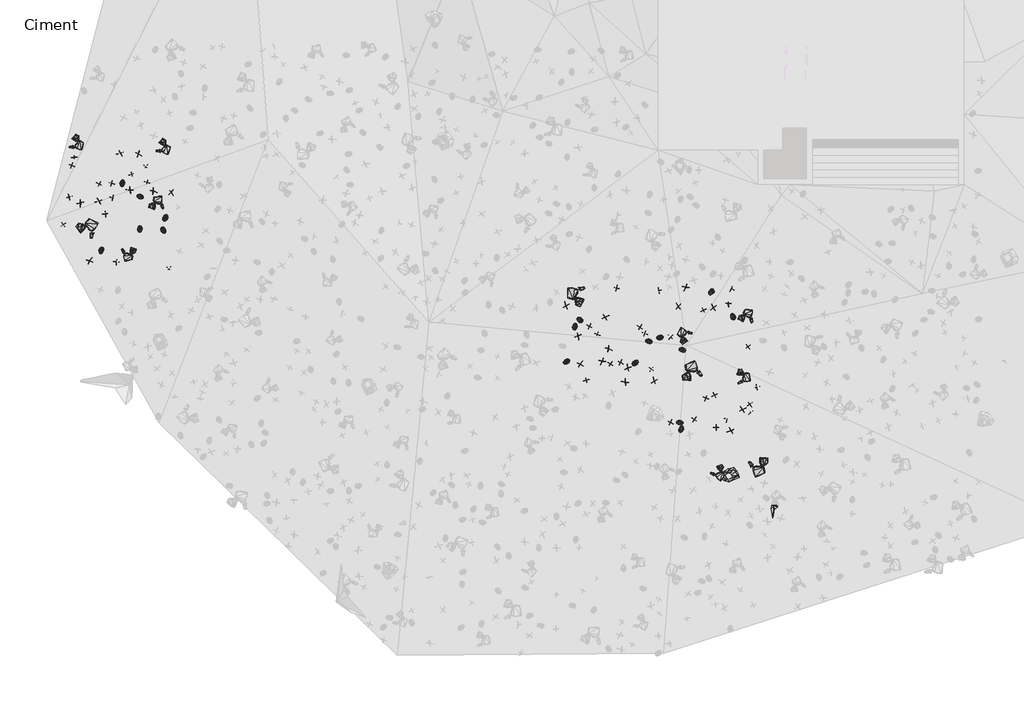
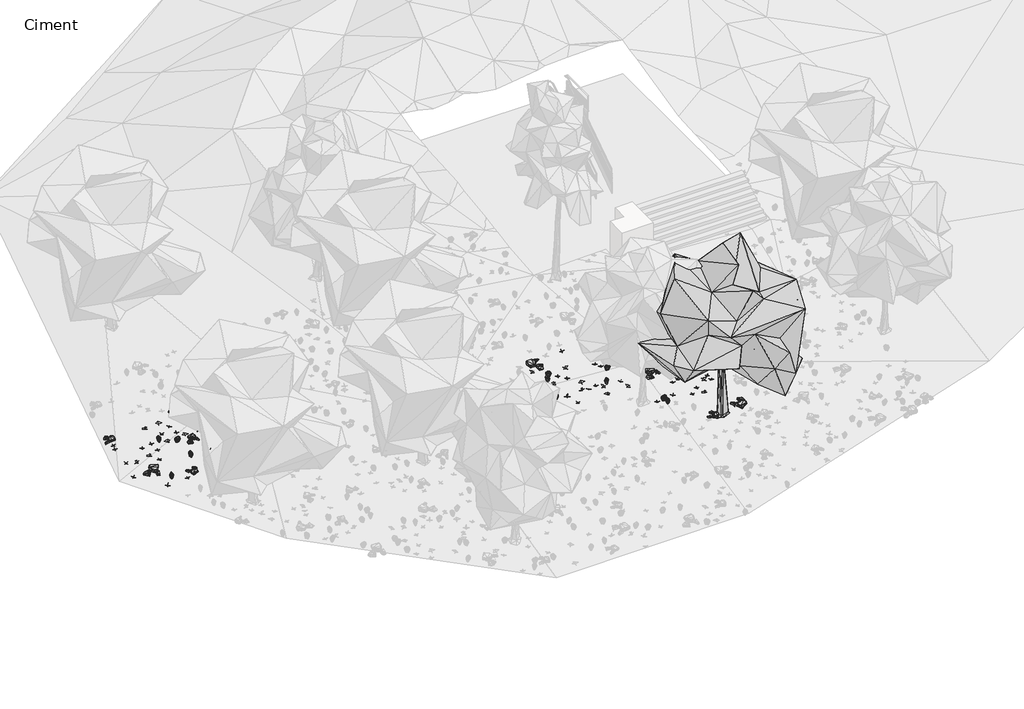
# One storey, part 5 of 30: 89 geographic elements.
"""IFC4 building model written with IfcOpenShell, lengths in millimetres."""

from ifc_helpers import new_model, si_unit, origin, place, context, project, spatial, transform, mapped, element, save
from components import enscape_assetdefinition_bush_025_fern_enscape_5718bf32, enscape_assetdefinition_bush_054_plant_09_version_2_enscape_7b546a12, enscape_assetdefinition_bush_062_plant_09_version_3_enscape_ccf8c8eb, enscape_assetdefinition_deciduous_tree_029_elm_enscape_e4c49baf, enscape_assetdefinition_stone_013_group_enscape_516da325, enscape_assetdefinition_stone_013_group_enscape_db9b3e91

model = new_model("IFC4")

# Units and contexts
model_context = context("Model", 3, world=origin())
ifc_project = project(units=[si_unit("LENGTHUNIT", "METRE", prefix="MILLI")], contexts=[model_context])

# Site, building, storey
site = spatial("IfcSite", under=ifc_project)
building = spatial("IfcBuilding", under=site)
storey = spatial("IfcBuildingStorey", under=building, Name="Ciment", Elevation=-1500.0)

# Geographic elements
placement = place(None, origin())
enscape_assetdefinition_bush_025_fern_enscape_shape = enscape_assetdefinition_bush_025_fern_enscape_5718bf32(model_context)
element("IfcGeographicElement", 1, ObjectType="Enscape AssetDefinition - Bush 025 Fern : Enscape AssetDefinition - Bush 025 Fern", at=placement, inside=storey, context=model_context, shape_type="MappedRepresentation", body=[
    mapped(enscape_assetdefinition_bush_025_fern_enscape_shape, transform((-7612.5183105, -17612.6613617, -1965.6220675), x_axis=(0.07223606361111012, 0.997387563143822, 0.0), y_axis=(-0.997387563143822, 0.07223606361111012, 0.0), z_axis=(0.0, 0.0, 1.0))),
])
element("IfcGeographicElement", 2, ObjectType="Enscape AssetDefinition - Bush 025 Fern : Enscape AssetDefinition - Bush 025 Fern", at=placement, inside=storey, context=model_context, shape_type="MappedRepresentation", body=[
    mapped(enscape_assetdefinition_bush_025_fern_enscape_shape, transform((-3229.391098, -18565.9103394, -2015.7375336), x_axis=(-0.9908557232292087, 0.13492566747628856, 0.0), y_axis=(-0.13492566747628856, -0.9908557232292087, 0.0), z_axis=(0.0, 0.0, 1.0))),
])
element("IfcGeographicElement", 3, ObjectType="Enscape AssetDefinition - Bush 025 Fern : Enscape AssetDefinition - Bush 025 Fern", at=placement, inside=storey, context=model_context, shape_type="MappedRepresentation", body=[
    mapped(enscape_assetdefinition_bush_025_fern_enscape_shape, transform((-7967.4682617, -19050.9395599, -2087.8872871), x_axis=(-0.8058529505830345, -0.5921157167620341, 0.0), y_axis=(0.5921157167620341, -0.8058529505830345, 0.0), z_axis=(0.0, 0.0, 1.0))),
])
element("IfcGeographicElement", 4, ObjectType="Enscape AssetDefinition - Bush 025 Fern : Enscape AssetDefinition - Bush 025 Fern", at=placement, inside=storey, context=model_context, shape_type="MappedRepresentation", body=[
    mapped(enscape_assetdefinition_bush_025_fern_enscape_shape, transform((-4146.2955475, -18061.0675812, -1978.5300493), x_axis=(-0.9344900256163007, -0.35598931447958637, 0.0), y_axis=(0.35598931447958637, -0.9344900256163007, 0.0), z_axis=(0.0, 0.0, 1.0))),
])
element("IfcGeographicElement", 5, ObjectType="Enscape AssetDefinition - Bush 025 Fern : Enscape AssetDefinition - Bush 025 Fern", at=placement, inside=storey, context=model_context, shape_type="MappedRepresentation", body=[
    mapped(enscape_assetdefinition_bush_025_fern_enscape_shape, transform((-4597.2537994, -18213.5334015, -1997.2624779), x_axis=(-0.9892392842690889, 0.14630665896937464, 0.0), y_axis=(-0.14630665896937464, -0.9892392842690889, 0.0), z_axis=(0.0, 0.0, 1.0))),
])
element("IfcGeographicElement", 6, ObjectType="Enscape AssetDefinition - Bush 025 Fern : Enscape AssetDefinition - Bush 025 Fern", at=placement, inside=storey, context=model_context, shape_type="MappedRepresentation", body=[
    mapped(enscape_assetdefinition_bush_025_fern_enscape_shape, transform((-24372.3812103, -13175.2147675, -2550.5905151), x_axis=(-0.35983525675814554, -0.9330158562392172, 0.0), y_axis=(0.9330158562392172, -0.35983525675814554, 0.0), z_axis=(0.0, 0.0, 1.0))),
])
element("IfcGeographicElement", 7, ObjectType="Enscape AssetDefinition - Bush 025 Fern : Enscape AssetDefinition - Bush 025 Fern", at=placement, inside=storey, context=model_context, shape_type="MappedRepresentation", body=[
    mapped(enscape_assetdefinition_bush_025_fern_enscape_shape, transform((-3263.0465031, -21805.0708771, -2272.6607323), x_axis=(0.2091553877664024, 0.9778824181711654, 0.0), y_axis=(-0.9778824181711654, 0.2091553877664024, 0.0), z_axis=(0.0, 0.0, 1.0))),
])
element("IfcGeographicElement", 8, ObjectType="Enscape AssetDefinition - Bush 025 Fern : Enscape AssetDefinition - Bush 025 Fern", at=placement, inside=storey, context=model_context, shape_type="MappedRepresentation", body=[
    mapped(enscape_assetdefinition_bush_025_fern_enscape_shape, transform((-26125.1544952, -11756.7424774, -2655.4327011), x_axis=(0.000703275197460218, -0.9999997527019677, 0.0), y_axis=(0.9999997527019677, 0.000703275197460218, 0.0), z_axis=(0.0, 0.0, 1.0))),
])
element("IfcGeographicElement", 9, ObjectType="Enscape AssetDefinition - Bush 025 Fern : Enscape AssetDefinition - Bush 025 Fern", at=placement, inside=storey, context=model_context, shape_type="MappedRepresentation", body=[
    mapped(enscape_assetdefinition_bush_025_fern_enscape_shape, transform((-1150.8464813, -17198.9078522, -1899.0255594), x_axis=(-0.5164579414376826, 0.8563125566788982, 0.0), y_axis=(-0.8563125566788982, -0.5164579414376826, 0.0), z_axis=(0.0, 0.0, 1.0))),
])
element("IfcGeographicElement", 10, ObjectType="Enscape AssetDefinition - Bush 025 Fern : Enscape AssetDefinition - Bush 025 Fern", at=placement, inside=storey, context=model_context, shape_type="MappedRepresentation", body=[
    mapped(enscape_assetdefinition_bush_025_fern_enscape_shape, transform((-25408.3480835, -13630.9947968, -2668.7676907), x_axis=(-0.012151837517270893, -0.9999261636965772, 0.0), y_axis=(0.9999261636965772, -0.012151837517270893, 0.0), z_axis=(0.0, 0.0, 1.0))),
])
element("IfcGeographicElement", 11, ObjectType="Enscape AssetDefinition - Bush 025 Fern : Enscape AssetDefinition - Bush 025 Fern", at=placement, inside=storey, context=model_context, shape_type="MappedRepresentation", body=[
    mapped(enscape_assetdefinition_bush_025_fern_enscape_shape, transform((-3335.269928, -21542.6082611, -2251.0170937), x_axis=(-0.999972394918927, -0.007430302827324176, 0.0), y_axis=(0.007430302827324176, -0.999972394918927, 0.0), z_axis=(0.0, 0.0, 1.0))),
])
element("IfcGeographicElement", 12, ObjectType="Enscape AssetDefinition - Bush 025 Fern : Enscape AssetDefinition - Bush 025 Fern", at=placement, inside=storey, context=model_context, shape_type="MappedRepresentation", body=[
    mapped(enscape_assetdefinition_bush_025_fern_enscape_shape, transform((-2045.0191498, -16206.3236237, -1758.882761), x_axis=(-0.5028364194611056, -0.8643815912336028, 0.0), y_axis=(0.8643815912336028, -0.5028364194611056, 0.0), z_axis=(0.0, 0.0, 1.0))),
])
element("IfcGeographicElement", 13, ObjectType="Enscape AssetDefinition - Bush 025 Fern : Enscape AssetDefinition - Bush 025 Fern", at=placement, inside=storey, context=model_context, shape_type="MappedRepresentation", body=[
    mapped(enscape_assetdefinition_bush_025_fern_enscape_shape, transform((-25402.7519226, -12291.472435, -2600.0366211), x_axis=(-0.9953551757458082, 0.09627083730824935, 0.0), y_axis=(-0.09627083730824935, -0.9953551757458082, 0.0), z_axis=(0.0, 0.0, 1.0))),
])
element("IfcGeographicElement", 14, ObjectType="Enscape AssetDefinition - Bush 025 Fern : Enscape AssetDefinition - Bush 025 Fern", at=placement, inside=storey, context=model_context, shape_type="MappedRepresentation", body=[
    mapped(enscape_assetdefinition_bush_025_fern_enscape_shape, transform((-26988.2793427, -14503.2482147, -2858.0183983), x_axis=(-0.17702829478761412, -0.9842057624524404, 0.0), y_axis=(0.9842057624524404, -0.17702829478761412, 0.0), z_axis=(0.0, 0.0, 1.0))),
])
element("IfcGeographicElement", 15, ObjectType="Enscape AssetDefinition - Bush 025 Fern : Enscape AssetDefinition - Bush 025 Fern", at=placement, inside=storey, context=model_context, shape_type="MappedRepresentation", body=[
    mapped(enscape_assetdefinition_bush_025_fern_enscape_shape, transform((-5139.9326324, -19103.4488678, -2071.7716217), x_axis=(0.7109456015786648, 0.7032470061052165, 0.0), y_axis=(-0.7032470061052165, 0.7109456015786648, 0.0), z_axis=(0.0, 0.0, 1.0))),
])
element("IfcGeographicElement", 16, ObjectType="Enscape AssetDefinition - Bush 025 Fern : Enscape AssetDefinition - Bush 025 Fern", at=placement, inside=storey, context=model_context, shape_type="MappedRepresentation", body=[
    mapped(enscape_assetdefinition_bush_025_fern_enscape_shape, transform((-7416.9025421, -17333.9099884, -1936.9082451), x_axis=(-0.847628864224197, 0.5305895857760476, 0.0), y_axis=(-0.5305895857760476, -0.847628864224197, 0.0), z_axis=(0.0, 0.0, 1.0))),
])
element("IfcGeographicElement", 17, ObjectType="Enscape AssetDefinition - Bush 025 Fern : Enscape AssetDefinition - Bush 025 Fern", at=placement, inside=storey, context=model_context, shape_type="MappedRepresentation", body=[
    mapped(enscape_assetdefinition_bush_025_fern_enscape_shape, transform((-24450.3135681, -13680.1242828, -2583.4479332), x_axis=(0.5643490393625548, -0.8255362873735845, 0.0), y_axis=(0.8255362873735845, 0.5643490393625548, 0.0), z_axis=(0.0, 0.0, 1.0))),
])
enscape_assetdefinition_bush_054_plant_09_version_2_enscape_shape = enscape_assetdefinition_bush_054_plant_09_version_2_enscape_7b546a12(model_context)
element("IfcGeographicElement", 18, ObjectType="Enscape AssetDefinition - Bush 054 Plant 09, Version 2 : Enscape AssetDefinition - Bush 054 Plant 09, Version 2", at=placement, inside=storey, context=model_context, shape_type="MappedRepresentation", body=[
    mapped(enscape_assetdefinition_bush_054_plant_09_version_2_enscape_shape, transform((-1843.7614441, -21749.8531342, -2305.372715), x_axis=(0.9977393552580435, 0.06720252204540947, 0.0), y_axis=(-0.06720252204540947, 0.9977393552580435, 0.0), z_axis=(0.0, 0.0, 1.0))),
])
element("IfcGeographicElement", 19, ObjectType="Enscape AssetDefinition - Bush 054 Plant 09, Version 2 : Enscape AssetDefinition - Bush 054 Plant 09, Version 2", at=placement, inside=storey, context=model_context, shape_type="MappedRepresentation", body=[
    mapped(enscape_assetdefinition_bush_054_plant_09_version_2_enscape_shape, transform((-26812.9272461, -13013.0329132, -2766.0522461), x_axis=(0.9867023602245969, 0.16253754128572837, 0.0), y_axis=(-0.16253754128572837, 0.9867023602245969, 0.0), z_axis=(0.0, 0.0, 1.0))),
])
element("IfcGeographicElement", 20, ObjectType="Enscape AssetDefinition - Bush 054 Plant 09, Version 2 : Enscape AssetDefinition - Bush 054 Plant 09, Version 2", at=placement, inside=storey, context=model_context, shape_type="MappedRepresentation", body=[
    mapped(enscape_assetdefinition_bush_054_plant_09_version_2_enscape_shape, transform((-1398.3078003, -21424.5662689, -2290.6184196), x_axis=(0.9726365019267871, -0.23233216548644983, 0.0), y_axis=(0.23233216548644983, 0.9726365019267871, 0.0), z_axis=(0.0, 0.0, 1.0))),
])
element("IfcGeographicElement", 21, ObjectType="Enscape AssetDefinition - Bush 054 Plant 09, Version 2 : Enscape AssetDefinition - Bush 054 Plant 09, Version 2", at=placement, inside=storey, context=model_context, shape_type="MappedRepresentation", body=[
    mapped(enscape_assetdefinition_bush_054_plant_09_version_2_enscape_shape, transform((-2370.5768585, -16945.4059601, -1840.4824734), x_axis=(0.48583258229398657, -0.8740518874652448, 0.0), y_axis=(0.8740518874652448, 0.48583258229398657, 0.0), z_axis=(0.0, 0.0, 1.0))),
])
element("IfcGeographicElement", 22, ObjectType="Enscape AssetDefinition - Bush 054 Plant 09, Version 2 : Enscape AssetDefinition - Bush 054 Plant 09, Version 2", at=placement, inside=storey, context=model_context, shape_type="MappedRepresentation", body=[
    mapped(enscape_assetdefinition_bush_054_plant_09_version_2_enscape_shape, transform((-420.0324714, -21140.7833099, -2293.2014465), x_axis=(0.7024263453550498, 0.7117564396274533, 0.0), y_axis=(-0.7117564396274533, 0.7024263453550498, 0.0), z_axis=(0.0, 0.0, 1.0))),
])
element("IfcGeographicElement", 23, ObjectType="Enscape AssetDefinition - Bush 054 Plant 09, Version 2 : Enscape AssetDefinition - Bush 054 Plant 09, Version 2", at=placement, inside=storey, context=model_context, shape_type="MappedRepresentation", body=[
    mapped(enscape_assetdefinition_bush_054_plant_09_version_2_enscape_shape, transform((-24219.1123962, -15247.6100922, -2642.0812607), x_axis=(-0.5691549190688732, -0.822230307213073, 0.0), y_axis=(0.822230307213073, -0.5691549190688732, 0.0), z_axis=(0.0, 0.0, 1.0))),
])
element("IfcGeographicElement", 24, ObjectType="Enscape AssetDefinition - Bush 054 Plant 09, Version 2 : Enscape AssetDefinition - Bush 054 Plant 09, Version 2", at=placement, inside=storey, context=model_context, shape_type="MappedRepresentation", body=[
    mapped(enscape_assetdefinition_bush_054_plant_09_version_2_enscape_shape, transform((-27075.9334564, -11788.4349823, -2757.7078342), x_axis=(0.9224442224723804, -0.38613036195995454, 0.0), y_axis=(0.38613036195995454, 0.9224442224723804, 0.0), z_axis=(0.0, 0.0, 1.0))),
])
element("IfcGeographicElement", 25, ObjectType="Enscape AssetDefinition - Bush 054 Plant 09, Version 2 : Enscape AssetDefinition - Bush 054 Plant 09, Version 2", at=placement, inside=storey, context=model_context, shape_type="MappedRepresentation", body=[
    mapped(enscape_assetdefinition_bush_054_plant_09_version_2_enscape_shape, transform((-3702.1465302, -21532.3467255, -2252.8364658), x_axis=(-0.9185486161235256, 0.39530803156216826, 0.0), y_axis=(-0.39530803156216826, -0.9185486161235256, 0.0), z_axis=(0.0, 0.0, 1.0))),
])
element("IfcGeographicElement", 26, ObjectType="Enscape AssetDefinition - Bush 054 Plant 09, Version 2 : Enscape AssetDefinition - Bush 054 Plant 09, Version 2", at=placement, inside=storey, context=model_context, shape_type="MappedRepresentation", body=[
    mapped(enscape_assetdefinition_bush_054_plant_09_version_2_enscape_shape, transform((-2255.6533813, -20551.361084, -2197.2026825), x_axis=(0.3170255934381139, 0.9484169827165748, 0.0), y_axis=(-0.9484169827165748, 0.3170255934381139, 0.0), z_axis=(0.0, 0.0, 1.0))),
])
element("IfcGeographicElement", 27, ObjectType="Enscape AssetDefinition - Bush 054 Plant 09, Version 2 : Enscape AssetDefinition - Bush 054 Plant 09, Version 2", at=placement, inside=storey, context=model_context, shape_type="MappedRepresentation", body=[
    mapped(enscape_assetdefinition_bush_054_plant_09_version_2_enscape_shape, transform((-4189.6877289, -16152.2884369, -1794.0789461), x_axis=(0.9609016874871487, 0.27688977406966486, 0.0), y_axis=(-0.27688977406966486, 0.9609016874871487, 0.0), z_axis=(0.0, 0.0, 1.0))),
])
element("IfcGeographicElement", 28, ObjectType="Enscape AssetDefinition - Bush 054 Plant 09, Version 2 : Enscape AssetDefinition - Bush 054 Plant 09, Version 2", at=placement, inside=storey, context=model_context, shape_type="MappedRepresentation", body=[
    mapped(enscape_assetdefinition_bush_054_plant_09_version_2_enscape_shape, transform((-2742.3782349, -21421.6957092, -2255.1589012), x_axis=(0.8522305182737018, -0.5231664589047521, 0.0), y_axis=(0.5231664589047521, 0.8522305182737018, 0.0), z_axis=(0.0, 0.0, 1.0))),
])
element("IfcGeographicElement", 29, ObjectType="Enscape AssetDefinition - Bush 054 Plant 09, Version 2 : Enscape AssetDefinition - Bush 054 Plant 09, Version 2", at=placement, inside=storey, context=model_context, shape_type="MappedRepresentation", body=[
    mapped(enscape_assetdefinition_bush_054_plant_09_version_2_enscape_shape, transform((-3705.9726715, -18047.7352142, -1973.3622074), x_axis=(0.7701134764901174, -0.6379069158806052, 0.0), y_axis=(0.6379069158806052, 0.7701134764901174, 0.0), z_axis=(0.0, 0.0, 1.0))),
])
element("IfcGeographicElement", 30, ObjectType="Enscape AssetDefinition - Bush 054 Plant 09, Version 2 : Enscape AssetDefinition - Bush 054 Plant 09, Version 2", at=placement, inside=storey, context=model_context, shape_type="MappedRepresentation", body=[
    mapped(enscape_assetdefinition_bush_054_plant_09_version_2_enscape_shape, transform((-4757.5569153, -17904.6649933, -1968.765974), x_axis=(0.3163911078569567, 0.9486288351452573, 0.0), y_axis=(-0.9486288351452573, 0.3163911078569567, 0.0), z_axis=(0.0, 0.0, 1.0))),
])
element("IfcGeographicElement", 31, ObjectType="Enscape AssetDefinition - Bush 054 Plant 09, Version 2 : Enscape AssetDefinition - Bush 054 Plant 09, Version 2", at=placement, inside=storey, context=model_context, shape_type="MappedRepresentation", body=[
    mapped(enscape_assetdefinition_bush_054_plant_09_version_2_enscape_shape, transform((-5747.0932007, -19078.3786774, -2074.1457939), x_axis=(-0.9169405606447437, 0.3990238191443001, 0.0), y_axis=(-0.3990238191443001, -0.9169405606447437, 0.0), z_axis=(0.0, 0.0, 1.0))),
])
element("IfcGeographicElement", 32, ObjectType="Enscape AssetDefinition - Bush 054 Plant 09, Version 2 : Enscape AssetDefinition - Bush 054 Plant 09, Version 2", at=placement, inside=storey, context=model_context, shape_type="MappedRepresentation", body=[
    mapped(enscape_assetdefinition_bush_054_plant_09_version_2_enscape_shape, transform((-4959.7949982, -17638.7271881, -1944.7947741), x_axis=(-0.4951869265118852, -0.8687864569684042, 0.0), y_axis=(0.8687864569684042, -0.4951869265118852, 0.0), z_axis=(0.0, 0.0, 1.0))),
])
element("IfcGeographicElement", 33, ObjectType="Enscape AssetDefinition - Bush 054 Plant 09, Version 2 : Enscape AssetDefinition - Bush 054 Plant 09, Version 2", at=placement, inside=storey, context=model_context, shape_type="MappedRepresentation", body=[
    mapped(enscape_assetdefinition_bush_054_plant_09_version_2_enscape_shape, transform((-175.8041233, -20092.9813385, -2214.4703865), x_axis=(-0.9647202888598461, -0.2632769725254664, 0.0), y_axis=(0.2632769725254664, -0.9647202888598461, 0.0), z_axis=(0.0, 0.0, 1.0))),
])
element("IfcGeographicElement", 34, ObjectType="Enscape AssetDefinition - Bush 054 Plant 09, Version 2 : Enscape AssetDefinition - Bush 054 Plant 09, Version 2", at=placement, inside=storey, context=model_context, shape_type="MappedRepresentation", body=[
    mapped(enscape_assetdefinition_bush_054_plant_09_version_2_enscape_shape, transform((-28536.2110138, -13441.7858124, -2945.8577633), x_axis=(-0.7792571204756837, -0.6267043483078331, 0.0), y_axis=(0.6267043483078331, -0.7792571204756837, 0.0), z_axis=(0.0, 0.0, 1.0))),
])
element("IfcGeographicElement", 35, ObjectType="Enscape AssetDefinition - Bush 054 Plant 09, Version 2 : Enscape AssetDefinition - Bush 054 Plant 09, Version 2", at=placement, inside=storey, context=model_context, shape_type="MappedRepresentation", body=[
    mapped(enscape_assetdefinition_bush_054_plant_09_version_2_enscape_shape, transform((-459.4841003, -20796.4611053, -2264.1921043), x_axis=(-0.6490636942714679, 0.7607340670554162, 0.0), y_axis=(-0.7607340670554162, -0.6490636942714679, 0.0), z_axis=(0.0, 0.0, 1.0))),
])
element("IfcGeographicElement", 36, ObjectType="Enscape AssetDefinition - Bush 054 Plant 09, Version 2 : Enscape AssetDefinition - Bush 054 Plant 09, Version 2", at=placement, inside=storey, context=model_context, shape_type="MappedRepresentation", body=[
    mapped(enscape_assetdefinition_bush_054_plant_09_version_2_enscape_shape, transform((-26551.2924194, -11750.2536774, -2701.1044025), x_axis=(-0.9853078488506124, 0.17078771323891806, 0.0), y_axis=(-0.17078771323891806, -0.9853078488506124, 0.0), z_axis=(0.0, 0.0, 1.0))),
])
element("IfcGeographicElement", 37, ObjectType="Enscape AssetDefinition - Bush 054 Plant 09, Version 2 : Enscape AssetDefinition - Bush 054 Plant 09, Version 2", at=placement, inside=storey, context=model_context, shape_type="MappedRepresentation", body=[
    mapped(enscape_assetdefinition_bush_054_plant_09_version_2_enscape_shape, transform((-7030.400753, -17614.156723, -1960.6425762), x_axis=(0.9382029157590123, -0.3460856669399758, 0.0), y_axis=(0.3460856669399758, 0.9382029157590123, 0.0), z_axis=(0.0, 0.0, 1.0))),
])
element("IfcGeographicElement", 38, ObjectType="Enscape AssetDefinition - Bush 054 Plant 09, Version 2 : Enscape AssetDefinition - Bush 054 Plant 09, Version 2", at=placement, inside=storey, context=model_context, shape_type="MappedRepresentation", body=[
    mapped(enscape_assetdefinition_bush_054_plant_09_version_2_enscape_shape, transform((-5904.8194885, -16036.0126495, -1797.9177237), x_axis=(-0.9840605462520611, 0.17783374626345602, 0.0), y_axis=(-0.17783374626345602, -0.9840605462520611, 0.0), z_axis=(0.0, 0.0, 1.0))),
])
element("IfcGeographicElement", 39, ObjectType="Enscape AssetDefinition - Bush 054 Plant 09, Version 2 : Enscape AssetDefinition - Bush 054 Plant 09, Version 2", at=placement, inside=storey, context=model_context, shape_type="MappedRepresentation", body=[
    mapped(enscape_assetdefinition_bush_054_plant_09_version_2_enscape_shape, transform((-4488.7313843, -19360.1856232, -2087.3353481), x_axis=(0.8392856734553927, -0.5436906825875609, 0.0), y_axis=(0.5436906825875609, 0.8392856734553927, 0.0), z_axis=(0.0, 0.0, 1.0))),
])
element("IfcGeographicElement", 40, ObjectType="Enscape AssetDefinition - Bush 054 Plant 09, Version 2 : Enscape AssetDefinition - Bush 054 Plant 09, Version 2", at=placement, inside=storey, context=model_context, shape_type="MappedRepresentation", body=[
    mapped(enscape_assetdefinition_bush_054_plant_09_version_2_enscape_shape, transform((-1914.5088196, -20420.3548431, -2195.4994202), x_axis=(0.5176627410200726, -0.8555847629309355, 0.0), y_axis=(0.8555847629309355, 0.5176627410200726, 0.0), z_axis=(0.0, 0.0, 1.0))),
])
element("IfcGeographicElement", 41, ObjectType="Enscape AssetDefinition - Bush 054 Plant 09, Version 2 : Enscape AssetDefinition - Bush 054 Plant 09, Version 2", at=placement, inside=storey, context=model_context, shape_type="MappedRepresentation", body=[
    mapped(enscape_assetdefinition_bush_054_plant_09_version_2_enscape_shape, transform((-28188.6024475, -11018.0530548, -2886.9066238), x_axis=(-0.9619515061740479, 0.2732202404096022, 0.0), y_axis=(-0.2732202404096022, -0.9619515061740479, 0.0), z_axis=(0.0, 0.0, 1.0))),
])
element("IfcGeographicElement", 42, ObjectType="Enscape AssetDefinition - Bush 054 Plant 09, Version 2 : Enscape AssetDefinition - Bush 054 Plant 09, Version 2", at=placement, inside=storey, context=model_context, shape_type="MappedRepresentation", body=[
    mapped(enscape_assetdefinition_bush_054_plant_09_version_2_enscape_shape, transform((-25112.5431061, -11708.990097, -2546.3929176), x_axis=(-0.22776663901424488, -0.9737157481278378, 0.0), y_axis=(0.9737157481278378, -0.22776663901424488, 0.0), z_axis=(0.0, 0.0, 1.0))),
])
element("IfcGeographicElement", 43, ObjectType="Enscape AssetDefinition - Bush 054 Plant 09, Version 2 : Enscape AssetDefinition - Bush 054 Plant 09, Version 2", at=placement, inside=storey, context=model_context, shape_type="MappedRepresentation", body=[
    mapped(enscape_assetdefinition_bush_054_plant_09_version_2_enscape_shape, transform((-6702.5680542, -17931.2343597, -1988.4605408), x_axis=(-0.3139423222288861, -0.9494420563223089, 0.0), y_axis=(0.9494420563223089, -0.3139423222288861, 0.0), z_axis=(0.0, 0.0, 1.0))),
])
element("IfcGeographicElement", 44, ObjectType="Enscape AssetDefinition - Bush 054 Plant 09, Version 2 : Enscape AssetDefinition - Bush 054 Plant 09, Version 2", at=placement, inside=storey, context=model_context, shape_type="MappedRepresentation", body=[
    mapped(enscape_assetdefinition_bush_054_plant_09_version_2_enscape_shape, transform((-26356.2450409, -14969.625473, -2823.8320351), x_axis=(0.02381646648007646, 0.9997163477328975, 0.0), y_axis=(-0.9997163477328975, 0.02381646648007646, 0.0), z_axis=(0.0, 0.0, 1.0))),
])
element("IfcGeographicElement", 45, ObjectType="Enscape AssetDefinition - Bush 054 Plant 09, Version 2 : Enscape AssetDefinition - Bush 054 Plant 09, Version 2", at=placement, inside=storey, context=model_context, shape_type="MappedRepresentation", body=[
    mapped(enscape_assetdefinition_bush_054_plant_09_version_2_enscape_shape, transform((-539.4630432, -18433.5632324, -2056.5431118), x_axis=(-0.753212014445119, -0.6577778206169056, 0.0), y_axis=(0.6577778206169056, -0.753212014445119, 0.0), z_axis=(0.0, 0.0, 1.0))),
])
element("IfcGeographicElement", 46, ObjectType="Enscape AssetDefinition - Bush 054 Plant 09, Version 2 : Enscape AssetDefinition - Bush 054 Plant 09, Version 2", at=placement, inside=storey, context=model_context, shape_type="MappedRepresentation", body=[
    mapped(enscape_assetdefinition_bush_054_plant_09_version_2_enscape_shape, transform((-7160.0914001, -19801.1264801, -2141.2081718), x_axis=(0.28577644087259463, -0.9582963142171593, 0.0), y_axis=(0.9582963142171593, 0.28577644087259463, 0.0), z_axis=(0.0, 0.0, 1.0))),
])
element("IfcGeographicElement", 47, ObjectType="Enscape AssetDefinition - Bush 054 Plant 09, Version 2 : Enscape AssetDefinition - Bush 054 Plant 09, Version 2", at=placement, inside=storey, context=model_context, shape_type="MappedRepresentation", body=[
    mapped(enscape_assetdefinition_bush_054_plant_09_version_2_enscape_shape, transform((-25159.570694, -11075.6893158, -2546.295166), x_axis=(-0.5837198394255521, -0.8119551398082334, 0.0), y_axis=(0.8119551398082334, -0.5837198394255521, 0.0), z_axis=(0.0, 0.0, 1.0))),
])
element("IfcGeographicElement", 48, ObjectType="Enscape AssetDefinition - Bush 054 Plant 09, Version 2 : Enscape AssetDefinition - Bush 054 Plant 09, Version 2", at=placement, inside=storey, context=model_context, shape_type="MappedRepresentation", body=[
    mapped(enscape_assetdefinition_bush_054_plant_09_version_2_enscape_shape, transform((-6164.6442413, -19135.9462738, -2081.6717148), x_axis=(-0.5101300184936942, -0.8600972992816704, 0.0), y_axis=(0.8600972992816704, -0.5101300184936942, 0.0), z_axis=(0.0, 0.0, 1.0))),
])
element("IfcGeographicElement", 49, ObjectType="Enscape AssetDefinition - Bush 054 Plant 09, Version 2 : Enscape AssetDefinition - Bush 054 Plant 09, Version 2", at=placement, inside=storey, context=model_context, shape_type="MappedRepresentation", body=[
    mapped(enscape_assetdefinition_bush_054_plant_09_version_2_enscape_shape, transform((-25744.51828, -11373.2852936, -2611.4761829), x_axis=(0.3201404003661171, -0.9473701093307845, 0.0), y_axis=(0.9473701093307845, 0.3201404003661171, 0.0), z_axis=(0.0, 0.0, 1.0))),
])
element("IfcGeographicElement", 50, ObjectType="Enscape AssetDefinition - Bush 054 Plant 09, Version 2 : Enscape AssetDefinition - Bush 054 Plant 09, Version 2", at=placement, inside=storey, context=model_context, shape_type="MappedRepresentation", body=[
    mapped(enscape_assetdefinition_bush_054_plant_09_version_2_enscape_shape, transform((-28080.7533264, -10698.3509064, -2880.6409836), x_axis=(-0.14843071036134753, 0.9889228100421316, 0.0), y_axis=(-0.9889228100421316, -0.14843071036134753, 0.0), z_axis=(0.0, 0.0, 1.0))),
])
element("IfcGeographicElement", 51, ObjectType="Enscape AssetDefinition - Bush 054 Plant 09, Version 2 : Enscape AssetDefinition - Bush 054 Plant 09, Version 2", at=placement, inside=storey, context=model_context, shape_type="MappedRepresentation", body=[
    mapped(enscape_assetdefinition_bush_054_plant_09_version_2_enscape_shape, transform((-1213.2072449, -16065.8092499, -1747.5376129), x_axis=(-0.9269740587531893, 0.37512543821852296, 0.0), y_axis=(-0.37512543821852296, -0.9269740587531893, 0.0), z_axis=(0.0, 0.0, 1.0))),
])
element("IfcGeographicElement", 52, ObjectType="Enscape AssetDefinition - Bush 054 Plant 09, Version 2 : Enscape AssetDefinition - Bush 054 Plant 09, Version 2", at=placement, inside=storey, context=model_context, shape_type="MappedRepresentation", body=[
    mapped(enscape_assetdefinition_bush_054_plant_09_version_2_enscape_shape, transform((-28292.5205231, -12307.0926666, -2892.4589157), x_axis=(-0.9522267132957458, -0.3053920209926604, 0.0), y_axis=(0.3053920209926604, -0.9522267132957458, 0.0), z_axis=(0.0, 0.0, 1.0))),
])
element("IfcGeographicElement", 53, ObjectType="Enscape AssetDefinition - Bush 054 Plant 09, Version 2 : Enscape AssetDefinition - Bush 054 Plant 09, Version 2", at=placement, inside=storey, context=model_context, shape_type="MappedRepresentation", body=[
    mapped(enscape_assetdefinition_bush_054_plant_09_version_2_enscape_shape, transform((-26524.5342255, -12353.6014557, -2706.0329914), x_axis=(0.9874342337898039, -0.15803048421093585, 0.0), y_axis=(0.15803048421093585, 0.9874342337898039, 0.0), z_axis=(0.0, 0.0, 1.0))),
])
enscape_assetdefinition_bush_062_plant_09_version_3_enscape_shape = enscape_assetdefinition_bush_062_plant_09_version_3_enscape_ccf8c8eb(model_context)
element("IfcGeographicElement", 54, ObjectType="Enscape AssetDefinition - Bush 062 Plant 09, Version 3 : Enscape AssetDefinition - Bush 062 Plant 09, Version 3", at=placement, inside=storey, context=model_context, shape_type="MappedRepresentation", body=[
    mapped(enscape_assetdefinition_bush_062_plant_09_version_3_enscape_shape, transform((-24843.132019, -12076.7993927, -2537.8046036), x_axis=(0.022447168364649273, -0.9997480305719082, 0.0), y_axis=(0.9997480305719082, 0.022447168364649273, 0.0), z_axis=(0.0, 0.0, 1.0))),
])
element("IfcGeographicElement", 55, ObjectType="Enscape AssetDefinition - Bush 062 Plant 09, Version 3 : Enscape AssetDefinition - Bush 062 Plant 09, Version 3", at=placement, inside=storey, context=model_context, shape_type="MappedRepresentation", body=[
    mapped(enscape_assetdefinition_bush_062_plant_09_version_3_enscape_shape, transform((-6499.0921021, -19044.8513031, -2076.8904686), x_axis=(-0.9965131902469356, 0.08343537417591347, 0.0), y_axis=(-0.08343537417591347, -0.9965131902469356, 0.0), z_axis=(0.0, 0.0, 1.0))),
])
element("IfcGeographicElement", 56, ObjectType="Enscape AssetDefinition - Bush 062 Plant 09, Version 3 : Enscape AssetDefinition - Bush 062 Plant 09, Version 3", at=placement, inside=storey, context=model_context, shape_type="MappedRepresentation", body=[
    mapped(enscape_assetdefinition_bush_062_plant_09_version_3_enscape_shape, transform((-752.4089813, -21000.0324249, -2273.0545998), x_axis=(0.6352801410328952, -0.7722817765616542, 0.0), y_axis=(0.7722817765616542, 0.6352801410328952, 0.0), z_axis=(0.0, 0.0, 1.0))),
])
element("IfcGeographicElement", 57, ObjectType="Enscape AssetDefinition - Bush 062 Plant 09, Version 3 : Enscape AssetDefinition - Bush 062 Plant 09, Version 3", at=placement, inside=storey, context=model_context, shape_type="MappedRepresentation", body=[
    mapped(enscape_assetdefinition_bush_062_plant_09_version_3_enscape_shape, transform((-6227.1118164, -18528.3222198, -2034.2473984), x_axis=(-0.03257548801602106, -0.9994692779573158, 0.0), y_axis=(0.9994692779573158, -0.03257548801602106, 0.0), z_axis=(0.0, 0.0, 1.0))),
])
element("IfcGeographicElement", 58, ObjectType="Enscape AssetDefinition - Bush 062 Plant 09, Version 3 : Enscape AssetDefinition - Bush 062 Plant 09, Version 3", at=placement, inside=storey, context=model_context, shape_type="MappedRepresentation", body=[
    mapped(enscape_assetdefinition_bush_062_plant_09_version_3_enscape_shape, transform((-7479.3682098, -18011.1522675, -2002.4709702), x_axis=(-0.8831372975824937, -0.469114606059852, 0.0), y_axis=(0.469114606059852, -0.8831372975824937, 0.0), z_axis=(0.0, 0.0, 1.0))),
])
element("IfcGeographicElement", 59, ObjectType="Enscape AssetDefinition - Bush 062 Plant 09, Version 3 : Enscape AssetDefinition - Bush 062 Plant 09, Version 3", at=placement, inside=storey, context=model_context, shape_type="MappedRepresentation", body=[
    mapped(enscape_assetdefinition_bush_062_plant_09_version_3_enscape_shape, transform((-4376.3923645, -19838.2205963, -2124.1927147), x_axis=(0.8069036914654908, 0.5906830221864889, 0.0), y_axis=(-0.5906830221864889, 0.8069036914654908, 0.0), z_axis=(0.0, 0.0, 1.0))),
])
element("IfcGeographicElement", 60, ObjectType="Enscape AssetDefinition - Bush 062 Plant 09, Version 3 : Enscape AssetDefinition - Bush 062 Plant 09, Version 3", at=placement, inside=storey, context=model_context, shape_type="MappedRepresentation", body=[
    mapped(enscape_assetdefinition_bush_062_plant_09_version_3_enscape_shape, transform((-25821.9871521, -12039.1750336, -2625.6189346), x_axis=(-0.24083650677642, 0.9705656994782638, 0.0), y_axis=(-0.9705656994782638, -0.24083650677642, 0.0), z_axis=(0.0, 0.0, 1.0))),
])
element("IfcGeographicElement", 61, ObjectType="Enscape AssetDefinition - Bush 062 Plant 09, Version 3 : Enscape AssetDefinition - Bush 062 Plant 09, Version 3", at=placement, inside=storey, context=model_context, shape_type="MappedRepresentation", body=[
    mapped(enscape_assetdefinition_bush_062_plant_09_version_3_enscape_shape, transform((-1362.2759581, -16674.5090485, -1823.6135244), x_axis=(-0.20483088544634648, 0.9787973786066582, 0.0), y_axis=(-0.9787973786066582, -0.20483088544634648, 0.0), z_axis=(0.0, 0.0, 1.0))),
])
element("IfcGeographicElement", 62, ObjectType="Enscape AssetDefinition - Bush 062 Plant 09, Version 3 : Enscape AssetDefinition - Bush 062 Plant 09, Version 3", at=placement, inside=storey, context=model_context, shape_type="MappedRepresentation", body=[
    mapped(enscape_assetdefinition_bush_062_plant_09_version_3_enscape_shape, transform((-5458.7650299, -19297.7848053, -2089.3666744), x_axis=(0.8740312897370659, 0.4858696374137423, 0.0), y_axis=(-0.4858696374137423, 0.8740312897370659, 0.0), z_axis=(0.0, 0.0, 1.0))),
])
element("IfcGeographicElement", 63, ObjectType="Enscape AssetDefinition - Bush 062 Plant 09, Version 3 : Enscape AssetDefinition - Bush 062 Plant 09, Version 3", at=placement, inside=storey, context=model_context, shape_type="MappedRepresentation", body=[
    mapped(enscape_assetdefinition_bush_062_plant_09_version_3_enscape_shape, transform((-3396.2726593, -16781.6867828, -1848.0409384), x_axis=(0.5722676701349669, 0.8200668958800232, 0.0), y_axis=(-0.8200668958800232, 0.5722676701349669, 0.0), z_axis=(0.0, 0.0, 1.0))),
])
element("IfcGeographicElement", 64, ObjectType="Enscape AssetDefinition - Bush 062 Plant 09, Version 3 : Enscape AssetDefinition - Bush 062 Plant 09, Version 3", at=placement, inside=storey, context=model_context, shape_type="MappedRepresentation", body=[
    mapped(enscape_assetdefinition_bush_062_plant_09_version_3_enscape_shape, transform((-1249.8742342, -21882.9250336, -2331.7499161), x_axis=(-0.641414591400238, 0.767194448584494, 0.0), y_axis=(-0.767194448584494, -0.641414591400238, 0.0), z_axis=(0.0, 0.0, 1.0))),
])
element("IfcGeographicElement", 65, ObjectType="Enscape AssetDefinition - Bush 062 Plant 09, Version 3 : Enscape AssetDefinition - Bush 062 Plant 09, Version 3", at=placement, inside=storey, context=model_context, shape_type="MappedRepresentation", body=[
    mapped(enscape_assetdefinition_bush_062_plant_09_version_3_enscape_shape, transform((-6369.764328, -17220.6096649, -1916.7186022), x_axis=(0.6548337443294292, -0.75577296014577, 0.0), y_axis=(0.75577296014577, 0.6548337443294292, 0.0), z_axis=(0.0, 0.0, 1.0))),
])
element("IfcGeographicElement", 66, ObjectType="Enscape AssetDefinition - Bush 062 Plant 09, Version 3 : Enscape AssetDefinition - Bush 062 Plant 09, Version 3", at=placement, inside=storey, context=model_context, shape_type="MappedRepresentation", body=[
    mapped(enscape_assetdefinition_bush_062_plant_09_version_3_enscape_shape, transform((-26212.4862671, -10526.427269, -2654.810667), x_axis=(-0.5563177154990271, 0.8309696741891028, 0.0), y_axis=(-0.8309696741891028, -0.5563177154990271, 0.0), z_axis=(0.0, 0.0, 1.0))),
])
element("IfcGeographicElement", 67, ObjectType="Enscape AssetDefinition - Bush 062 Plant 09, Version 3 : Enscape AssetDefinition - Bush 062 Plant 09, Version 3", at=placement, inside=storey, context=model_context, shape_type="MappedRepresentation", body=[
    mapped(enscape_assetdefinition_bush_062_plant_09_version_3_enscape_shape, transform((-24116.5122986, -12129.2476654, -2473.8678932), x_axis=(-0.5625838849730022, -0.8267402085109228, 0.0), y_axis=(0.8267402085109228, -0.5625838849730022, 0.0), z_axis=(0.0, 0.0, 1.0))),
])
element("IfcGeographicElement", 68, ObjectType="Enscape AssetDefinition - Bush 062 Plant 09, Version 3 : Enscape AssetDefinition - Bush 062 Plant 09, Version 3", at=placement, inside=storey, context=model_context, shape_type="MappedRepresentation", body=[
    mapped(enscape_assetdefinition_bush_062_plant_09_version_3_enscape_shape, transform((-27452.7187347, -14917.1161652, -2921.66996), x_axis=(0.9746986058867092, -0.22352321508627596, 0.0), y_axis=(0.22352321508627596, 0.9746986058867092, 0.0), z_axis=(0.0, 0.0, 1.0))),
])
element("IfcGeographicElement", 69, ObjectType="Enscape AssetDefinition - Bush 062 Plant 09, Version 3 : Enscape AssetDefinition - Bush 062 Plant 09, Version 3", at=placement, inside=storey, context=model_context, shape_type="MappedRepresentation", body=[
    mapped(enscape_assetdefinition_bush_062_plant_09_version_3_enscape_shape, transform((-27097.782135, -12491.2700653, -2765.7608986), x_axis=(-0.5802256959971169, 0.8144557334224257, 0.0), y_axis=(-0.8144557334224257, -0.5802256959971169, 0.0), z_axis=(0.0, 0.0, 1.0))),
])
element("IfcGeographicElement", 70, ObjectType="Enscape AssetDefinition - Bush 062 Plant 09, Version 3 : Enscape AssetDefinition - Bush 062 Plant 09, Version 3", at=placement, inside=storey, context=model_context, shape_type="MappedRepresentation", body=[
    mapped(enscape_assetdefinition_bush_062_plant_09_version_3_enscape_shape, transform((-25450.668335, -10551.6672134, -2573.2731819), x_axis=(-0.2004169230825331, -0.979710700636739, 0.0), y_axis=(0.979710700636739, -0.2004169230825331, 0.0), z_axis=(0.0, 0.0, 1.0))),
])
element("IfcGeographicElement", 71, ObjectType="Enscape AssetDefinition - Bush 062 Plant 09, Version 3 : Enscape AssetDefinition - Bush 062 Plant 09, Version 3", at=placement, inside=storey, context=model_context, shape_type="MappedRepresentation", body=[
    mapped(enscape_assetdefinition_bush_062_plant_09_version_3_enscape_shape, transform((-5564.9676323, -19892.7078247, -2136.9991302), x_axis=(-0.16664600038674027, 0.9860167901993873, 0.0), y_axis=(-0.9860167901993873, -0.16664600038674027, 0.0), z_axis=(0.0, 0.0, 1.0))),
])
element("IfcGeographicElement", 72, ObjectType="Enscape AssetDefinition - Bush 062 Plant 09, Version 3 : Enscape AssetDefinition - Bush 062 Plant 09, Version 3", at=placement, inside=storey, context=model_context, shape_type="MappedRepresentation", body=[
    mapped(enscape_assetdefinition_bush_062_plant_09_version_3_enscape_shape, transform((-7392.0650482, -19148.8552094, -2091.4800167), x_axis=(0.9586971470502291, -0.28442886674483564, 0.0), y_axis=(0.28442886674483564, 0.9586971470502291, 0.0), z_axis=(0.0, 0.0, 1.0))),
])
element("IfcGeographicElement", 73, ObjectType="Enscape AssetDefinition - Bush 062 Plant 09, Version 3 : Enscape AssetDefinition - Bush 062 Plant 09, Version 3", at=placement, inside=storey, context=model_context, shape_type="MappedRepresentation", body=[
    mapped(enscape_assetdefinition_bush_062_plant_09_version_3_enscape_shape, transform((-1960.5140686, -16835.7143402, -1827.5308609), x_axis=(0.6956816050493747, 0.7183502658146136, 0.0), y_axis=(-0.7183502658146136, 0.6956816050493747, 0.0), z_axis=(0.0, 0.0, 1.0))),
])
element("IfcGeographicElement", 74, ObjectType="Enscape AssetDefinition - Bush 062 Plant 09, Version 3 : Enscape AssetDefinition - Bush 062 Plant 09, Version 3", at=placement, inside=storey, context=model_context, shape_type="MappedRepresentation", body=[
    mapped(enscape_assetdefinition_bush_062_plant_09_version_3_enscape_shape, transform((-7989.6869659, -16755.235672, -1885.9155178), x_axis=(0.8117300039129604, 0.5840328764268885, 0.0), y_axis=(-0.5840328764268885, 0.8117300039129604, 0.0), z_axis=(0.0, 0.0, 1.0))),
])
element("IfcGeographicElement", 75, ObjectType="Enscape AssetDefinition - Bush 062 Plant 09, Version 3 : Enscape AssetDefinition - Bush 062 Plant 09, Version 3", at=placement, inside=storey, context=model_context, shape_type="MappedRepresentation", body=[
    mapped(enscape_assetdefinition_bush_062_plant_09_version_3_enscape_shape, transform((-3082.6702118, -16016.2563324, -1765.8787966), x_axis=(-0.9979513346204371, 0.06397760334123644, 0.0), y_axis=(-0.06397760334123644, -0.9979513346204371, 0.0), z_axis=(0.0, 0.0, 1.0))),
])
element("IfcGeographicElement", 76, ObjectType="Enscape AssetDefinition - Bush 062 Plant 09, Version 3 : Enscape AssetDefinition - Bush 062 Plant 09, Version 3", at=placement, inside=storey, context=model_context, shape_type="MappedRepresentation", body=[
    mapped(enscape_assetdefinition_bush_062_plant_09_version_3_enscape_shape, transform((-27834.3601227, -12570.8026886, -2845.4408646), x_axis=(-0.9418485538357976, -0.33603764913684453, 0.0), y_axis=(0.33603764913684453, -0.9418485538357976, 0.0), z_axis=(0.0, 0.0, 1.0))),
])
enscape_assetdefinition_deciduous_tree_029_elm_enscape_shape = enscape_assetdefinition_deciduous_tree_029_elm_enscape_e4c49baf(model_context)
element("IfcGeographicElement", 77, ObjectType="Enscape AssetDefinition - Deciduous Tree 029 Elm : Enscape AssetDefinition - Deciduous Tree 029 Elm", at=placement, inside=storey, context=model_context, shape_type="MappedRepresentation", body=[
    mapped(enscape_assetdefinition_deciduous_tree_029_elm_enscape_shape, transform((-1245.9831238, -23693.5577393, -2478.9562225), x_axis=(0.0, 1.0, 0.0), y_axis=(-1.0, 0.0, 0.0), z_axis=(0.0, 0.0, 1.0))),
])
enscape_assetdefinition_stone_013_group_enscape_shape = enscape_assetdefinition_stone_013_group_enscape_516da325(model_context)
element("IfcGeographicElement", 78, ObjectType="Enscape AssetDefinition - Stone 013 Group : Enscape AssetDefinition - Stone 013 Group", at=placement, inside=storey, context=model_context, shape_type="MappedRepresentation", body=[
    mapped(enscape_assetdefinition_stone_013_group_enscape_shape, transform((-2797.0941067, -19471.950531, -2095.3121185), x_axis=(0.9447606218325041, 0.32776114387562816, 0.0), y_axis=(-0.32776114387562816, 0.9447606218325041, 0.0), z_axis=(0.0, 0.0, 1.0))),
])
element("IfcGeographicElement", 79, ObjectType="Enscape AssetDefinition - Stone 013 Group : Enscape AssetDefinition - Stone 013 Group", at=placement, inside=storey, context=model_context, shape_type="MappedRepresentation", body=[
    mapped(enscape_assetdefinition_stone_013_group_enscape_shape, transform((-7522.1710205, -16291.7690277, -1836.9213343), x_axis=(0.09140890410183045, 0.995813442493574, 0.0), y_axis=(-0.995813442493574, 0.09140890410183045, 0.0), z_axis=(0.0, 0.0, 1.0))),
])
element("IfcGeographicElement", 80, ObjectType="Enscape AssetDefinition - Stone 013 Group : Enscape AssetDefinition - Stone 013 Group", at=placement, inside=storey, context=model_context, shape_type="MappedRepresentation", body=[
    mapped(enscape_assetdefinition_stone_013_group_enscape_shape, transform((-27511.4879608, -13617.2428131, -2860.8584404), x_axis=(0.8665012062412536, -0.4991749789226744, 0.0), y_axis=(0.4991749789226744, 0.8665012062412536, 0.0), z_axis=(0.0, 0.0, 1.0))),
])
element("IfcGeographicElement", 81, ObjectType="Enscape AssetDefinition - Stone 013 Group : Enscape AssetDefinition - Stone 013 Group", at=placement, inside=storey, context=model_context, shape_type="MappedRepresentation", body=[
    mapped(enscape_assetdefinition_stone_013_group_enscape_shape, transform((-143.1274414, -23321.9928741, -2477.6775837), x_axis=(-0.9520664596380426, -0.30589124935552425, 0.0), y_axis=(0.30589124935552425, -0.9520664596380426, 0.0), z_axis=(0.0, 0.0, 1.0))),
])
enscape_assetdefinition_stone_013_group_enscape_2_shape = enscape_assetdefinition_stone_013_group_enscape_db9b3e91(model_context)
element("IfcGeographicElement", 82, ObjectType="Enscape AssetDefinition - Stone 013 Group : Enscape AssetDefinition - Stone 013 Group 2", at=placement, inside=storey, context=model_context, shape_type="MappedRepresentation", body=[
    mapped(enscape_assetdefinition_stone_013_group_enscape_2_shape, transform((-1764.705658, -23600.4962921, -2457.8051567), x_axis=(-0.7079342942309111, -0.7062782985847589, 0.0), y_axis=(0.7062782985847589, -0.7079342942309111, 0.0), z_axis=(0.0, 0.0, 1.0))),
])
element("IfcGeographicElement", 83, ObjectType="Enscape AssetDefinition - Stone 013 Group : Enscape AssetDefinition - Stone 013 Group 2", at=placement, inside=storey, context=model_context, shape_type="MappedRepresentation", body=[
    mapped(enscape_assetdefinition_stone_013_group_enscape_2_shape, transform((-25893.573761, -14615.4308319, -2763.3814812), x_axis=(-0.9926568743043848, -0.12096416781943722, 0.0), y_axis=(0.12096416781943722, -0.9926568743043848, 0.0), z_axis=(0.0, 0.0, 1.0))),
])
element("IfcGeographicElement", 84, ObjectType="Enscape AssetDefinition - Stone 013 Group : Enscape AssetDefinition - Stone 013 Group 2", at=placement, inside=storey, context=model_context, shape_type="MappedRepresentation", body=[
    mapped(enscape_assetdefinition_stone_013_group_enscape_2_shape, transform((-24468.8606262, -10298.9683151, -2465.8739567), x_axis=(-0.3618283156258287, -0.9322447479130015, 0.0), y_axis=(0.9322447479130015, -0.3618283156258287, 0.0), z_axis=(0.0, 0.0, 1.0))),
])
element("IfcGeographicElement", 85, ObjectType="Enscape AssetDefinition - Stone 013 Group : Enscape AssetDefinition - Stone 013 Group 2", at=placement, inside=storey, context=model_context, shape_type="MappedRepresentation", body=[
    mapped(enscape_assetdefinition_stone_013_group_enscape_2_shape, transform((-3118.0136204, -17960.8592987, -1959.774375), x_axis=(0.5487616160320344, 0.8359788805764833, 0.0), y_axis=(-0.8359788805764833, 0.5487616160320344, 0.0), z_axis=(0.0, 0.0, 1.0))),
])
element("IfcGeographicElement", 86, ObjectType="Enscape AssetDefinition - Stone 013 Group : Enscape AssetDefinition - Stone 013 Group 2", at=placement, inside=storey, context=model_context, shape_type="MappedRepresentation", body=[
    mapped(enscape_assetdefinition_stone_013_group_enscape_2_shape, transform((-755.44554, -19700.0255585, -2167.3519611), x_axis=(0.09743624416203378, -0.995241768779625, 0.0), y_axis=(0.995241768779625, 0.09743624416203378, 0.0), z_axis=(0.0, 0.0, 1.0))),
])
element("IfcGeographicElement", 87, ObjectType="Enscape AssetDefinition - Stone 013 Group : Enscape AssetDefinition - Stone 013 Group 2", at=placement, inside=storey, context=model_context, shape_type="MappedRepresentation", body=[
    mapped(enscape_assetdefinition_stone_013_group_enscape_2_shape, transform((-28019.0906525, -10133.4209442, -2902.0953178), x_axis=(-0.3276116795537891, -0.9448124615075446, 0.0), y_axis=(0.9448124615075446, -0.3276116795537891, 0.0), z_axis=(0.0, 0.0, 1.0))),
])
element("IfcGeographicElement", 88, ObjectType="Enscape AssetDefinition - Stone 013 Group : Enscape AssetDefinition - Stone 013 Group 2", at=placement, inside=storey, context=model_context, shape_type="MappedRepresentation", body=[
    mapped(enscape_assetdefinition_stone_013_group_enscape_2_shape, transform((-568.3097839, -17218.454361, -1918.5284376), x_axis=(0.9911076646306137, -0.1330623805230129, 0.0), y_axis=(0.1330623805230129, 0.9911076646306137, 0.0), z_axis=(0.0, 0.0, 1.0))),
])
element("IfcGeographicElement", 89, ObjectType="Enscape AssetDefinition - Stone 013 Group : Enscape AssetDefinition - Stone 013 Group 2", at=placement, inside=storey, context=model_context, shape_type="MappedRepresentation", body=[
    mapped(enscape_assetdefinition_stone_013_group_enscape_2_shape, transform((-24676.071167, -12593.6460495, -2548.8116741), x_axis=(0.9991290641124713, 0.041726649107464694, 0.0), y_axis=(-0.041726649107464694, 0.9991290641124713, 0.0), z_axis=(0.0, 0.0, 1.0))),
])

save(model, "model.ifc")
